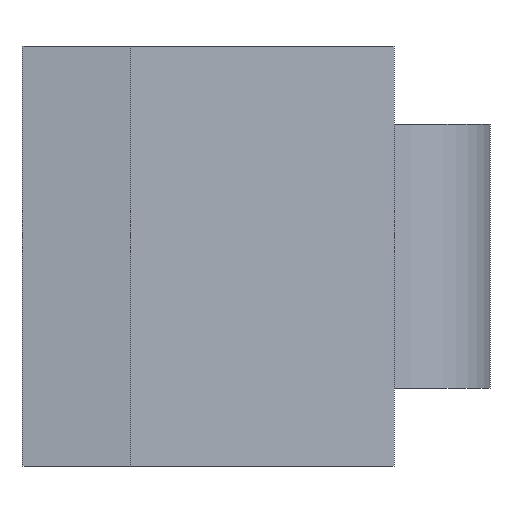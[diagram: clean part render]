
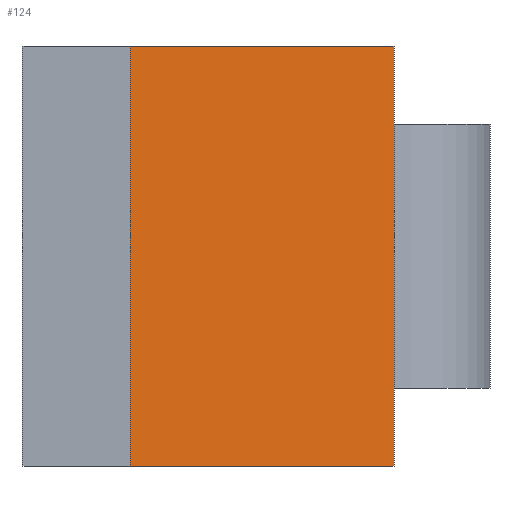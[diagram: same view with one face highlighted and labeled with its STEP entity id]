
A CAD part, front view. The second image highlights one B-rep face of the part: STEP entity #124.
In plain terms, the highlighted planar face has unit normal (0.139, -0.99, 0).
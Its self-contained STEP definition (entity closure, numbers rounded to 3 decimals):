
#124=ADVANCED_FACE('',(#186),#150,.T.);
#150=PLANE('',#522);
#186=FACE_OUTER_BOUND('',#214,.T.);
#214=EDGE_LOOP('',(#285,#286,#287,#288));
#285=ORIENTED_EDGE('',*,*,#413,.F.);
#286=ORIENTED_EDGE('',*,*,#384,.F.);
#287=ORIENTED_EDGE('',*,*,#406,.T.);
#288=ORIENTED_EDGE('',*,*,#418,.T.);
#344=VERTEX_POINT('',#673);
#346=VERTEX_POINT('',#677);
#366=VERTEX_POINT('',#722);
#371=VERTEX_POINT('',#736);
#384=EDGE_CURVE('',#346,#344,#436,.T.);
#406=EDGE_CURVE('',#346,#366,#453,.T.);
#413=EDGE_CURVE('',#344,#371,#459,.T.);
#418=EDGE_CURVE('',#366,#371,#464,.T.);
#436=LINE('',#678,#474);
#453=LINE('',#723,#491);
#459=LINE('',#735,#497);
#464=LINE('',#744,#502);
#474=VECTOR('',#555,1.);
#491=VECTOR('',#588,1.);
#497=VECTOR('',#598,1.);
#502=VECTOR('',#607,1.);
#522=AXIS2_PLACEMENT_3D('',#745,#608,#609);
#555=DIRECTION('',(0.,0.,-1.));
#588=DIRECTION('',(-0.99,-0.139,0.));
#598=DIRECTION('',(-0.99,-0.139,0.));
#607=DIRECTION('',(0.,0.,-1.));
#608=DIRECTION('',(0.139,-0.99,0.));
#609=DIRECTION('',(0.99,0.139,0.));
#673=CARTESIAN_POINT('',(14.,-20.908,0.));
#677=CARTESIAN_POINT('',(14.,-20.908,35.));
#678=CARTESIAN_POINT('',(14.,-20.908,35.));
#722=CARTESIAN_POINT('',(-8.,-24.,35.));
#723=CARTESIAN_POINT('',(14.,-20.908,35.));
#735=CARTESIAN_POINT('',(14.,-20.908,0.));
#736=CARTESIAN_POINT('',(-8.,-24.,0.));
#744=CARTESIAN_POINT('',(-8.,-24.,35.));
#745=CARTESIAN_POINT('',(14.,-20.908,35.));
